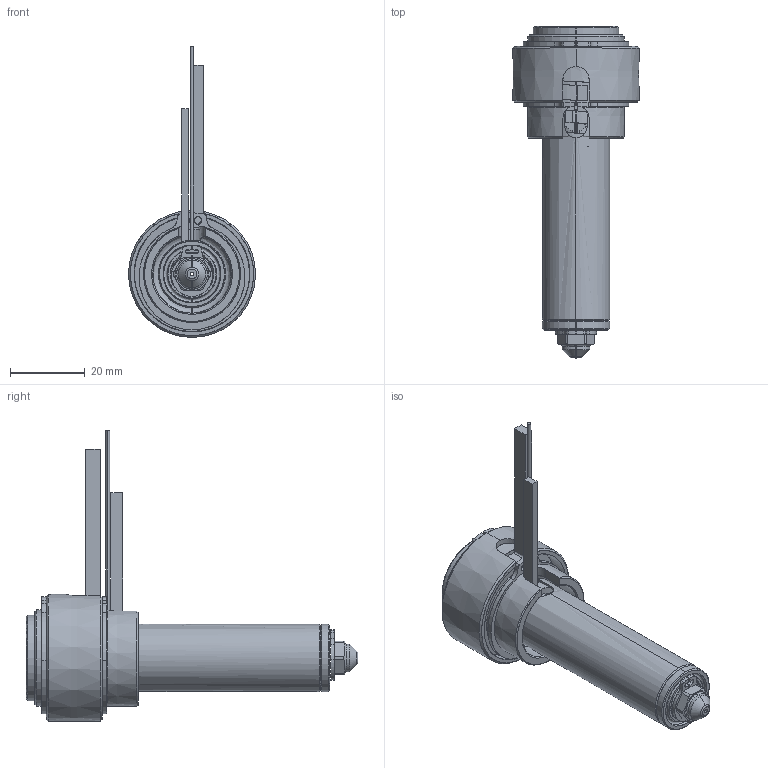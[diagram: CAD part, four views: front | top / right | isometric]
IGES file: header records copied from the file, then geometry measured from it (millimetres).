
Start section: SolidWorks IGES file using analytic representation for surfaces
Global section: file name: C:\Documents and Settings\ws-20\Desktop\TEM\UGER2502-M-A-1 [Øb-0.90 ØC-4.0].IGS; native system: SolidWorks 2012; preprocessor: SolidWorks 2012; author: ws-20; date: 120405.101736; units: millimetre
Bounding box: 34 x 88.9 x 77.9 mm (x, y, z)
Surface area: 23677.8 mm2 (no closed solid volume)
Topology: 0 solids, 0 shells, 195 faces, 2537 edges, 2537 vertices
Faces by surface type: revolution 123, bspline 72
